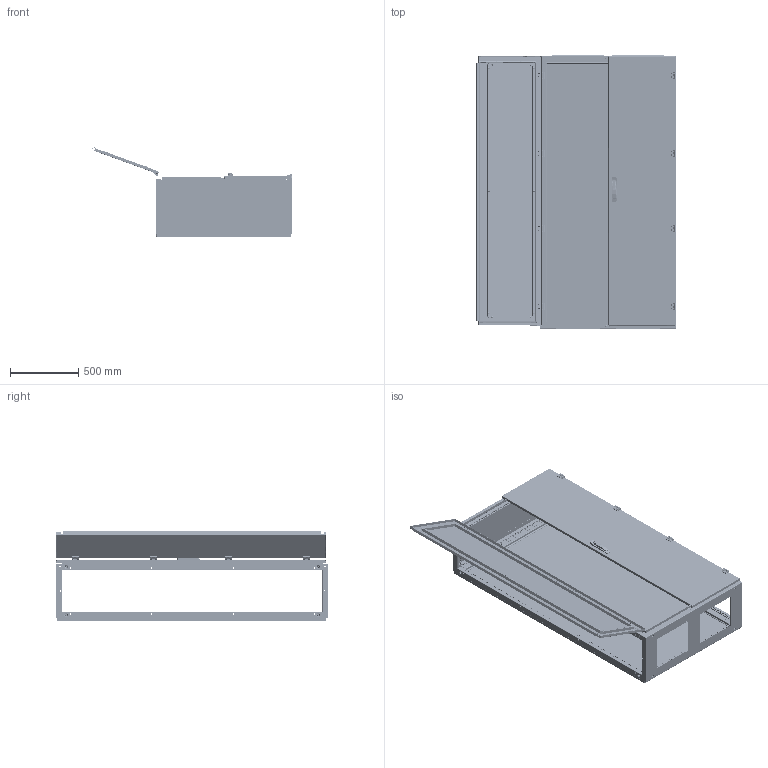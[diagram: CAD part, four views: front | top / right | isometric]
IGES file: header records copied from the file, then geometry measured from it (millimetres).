
Start section: SolidWorks IGES file using analytic representation for surfaces
Global section: file name: U:\14_RD\05_Technical_office\04_Office\Hrdinova\3D modely - IGES\Distri\QA201004.IGS; native system: SolidWorks 2011; preprocessor: SolidWorks 2011; author: adhrja3; date: 170613.082233; units: millimetre
Bounding box: 1468.78 x 2004.5 x 662.7 mm (x, y, z)
Surface area: 15911279 mm2 (no closed solid volume)
Topology: 0 solids, 0 shells, 8822 faces, 150917 edges, 150633 vertices
Faces by surface type: bspline 4634, revolution 4188
